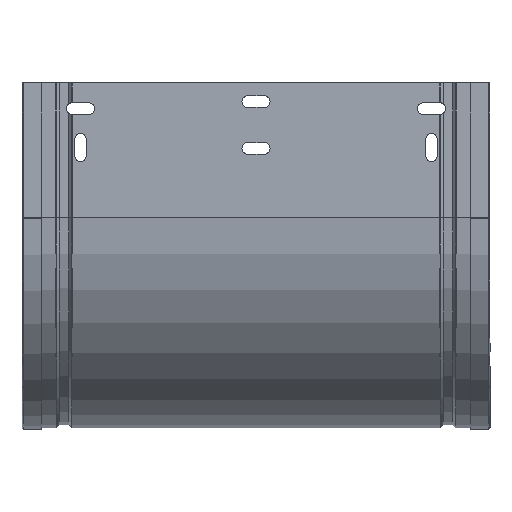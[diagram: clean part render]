
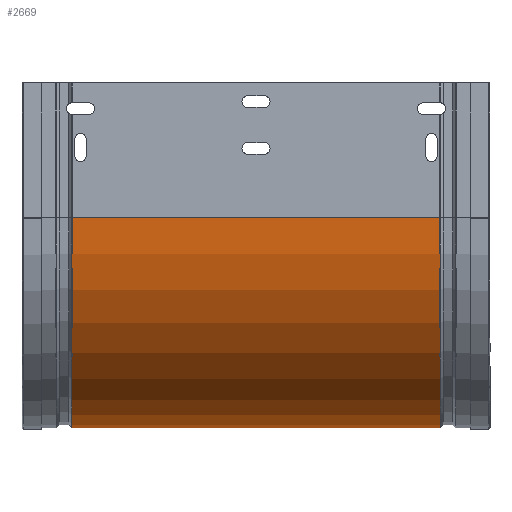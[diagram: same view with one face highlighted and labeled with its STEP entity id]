
A CAD part, front view. The second image highlights one B-rep face of the part: STEP entity #2669.
In plain terms, the highlighted cylindrical face has radius 134.8 mm (diameter 269.6 mm), a partial arc.
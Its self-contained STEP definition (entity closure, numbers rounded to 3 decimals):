
#167 = EDGE_CURVE ( 'NONE', #4487, #319, #3102, .T. ) ;
#191 = CARTESIAN_POINT ( 'NONE',  ( -31., -0.8, -86.4 ) ) ;
#319 = VERTEX_POINT ( 'NONE', #3074 ) ;
#329 = VERTEX_POINT ( 'NONE', #5901 ) ;
#355 = ORIENTED_EDGE ( 'NONE', *, *, #167, .T. ) ;
#636 = DIRECTION ( 'NONE',  ( 0., 0., -1. ) ) ;
#658 = DIRECTION ( 'NONE',  ( 1., 0., 0. ) ) ;
#776 = CARTESIAN_POINT ( 'NONE',  ( -31., 134., -86.4 ) ) ;
#809 = DIRECTION ( 'NONE',  ( 1., 0., 0. ) ) ;
#981 = EDGE_CURVE ( 'NONE', #4487, #1997, #3153, .T. ) ;
#1484 = AXIS2_PLACEMENT_3D ( 'NONE', #4551, #809, #1751 ) ;
#1637 = DIRECTION ( 'NONE',  ( 0., 0., -1. ) ) ;
#1751 = DIRECTION ( 'NONE',  ( 0., 0., -1. ) ) ;
#1883 = VECTOR ( 'NONE', #658, 1000. ) ;
#1997 = VERTEX_POINT ( 'NONE', #191 ) ;
#2523 = CARTESIAN_POINT ( 'NONE',  ( -267., 134., -86.4 ) ) ;
#2669 = ADVANCED_FACE ( 'NONE', ( #3578 ), #3155, .T. ) ;
#2675 = CARTESIAN_POINT ( 'NONE',  ( -31., -0.8, -86.4 ) ) ;
#3074 = CARTESIAN_POINT ( 'NONE',  ( -267., 134., -221.2 ) ) ;
#3102 = CIRCLE ( 'NONE', #5160, 134.8 ) ;
#3153 = LINE ( 'NONE', #2675, #5170 ) ;
#3155 = CYLINDRICAL_SURFACE ( 'NONE', #1484, 134.8 ) ;
#3489 = DIRECTION ( 'NONE',  ( 1., 0., 0. ) ) ;
#3578 = FACE_OUTER_BOUND ( 'NONE', #4742, .T. ) ;
#3736 = CIRCLE ( 'NONE', #5200, 134.8 ) ;
#3840 = ORIENTED_EDGE ( 'NONE', *, *, #5379, .F. ) ;
#4248 = ORIENTED_EDGE ( 'NONE', *, *, #5323, .T. ) ;
#4487 = VERTEX_POINT ( 'NONE', #5703 ) ;
#4549 = DIRECTION ( 'NONE',  ( 1., 0., 0. ) ) ;
#4551 = CARTESIAN_POINT ( 'NONE',  ( 0., 134., -86.4 ) ) ;
#4738 = CARTESIAN_POINT ( 'NONE',  ( -31., 134., -221.2 ) ) ;
#4742 = EDGE_LOOP ( 'NONE', ( #5455, #355, #4248, #3840 ) ) ;
#5160 = AXIS2_PLACEMENT_3D ( 'NONE', #2523, #3489, #636 ) ;
#5170 = VECTOR ( 'NONE', #4549, 1000. ) ;
#5200 = AXIS2_PLACEMENT_3D ( 'NONE', #776, #5359, #1637 ) ;
#5304 = LINE ( 'NONE', #4738, #1883 ) ;
#5323 = EDGE_CURVE ( 'NONE', #319, #329, #5304, .T. ) ;
#5359 = DIRECTION ( 'NONE',  ( 1., 0., 0. ) ) ;
#5379 = EDGE_CURVE ( 'NONE', #1997, #329, #3736, .T. ) ;
#5455 = ORIENTED_EDGE ( 'NONE', *, *, #981, .F. ) ;
#5703 = CARTESIAN_POINT ( 'NONE',  ( -267., -0.8, -86.4 ) ) ;
#5901 = CARTESIAN_POINT ( 'NONE',  ( -31., 134., -221.2 ) ) ;
